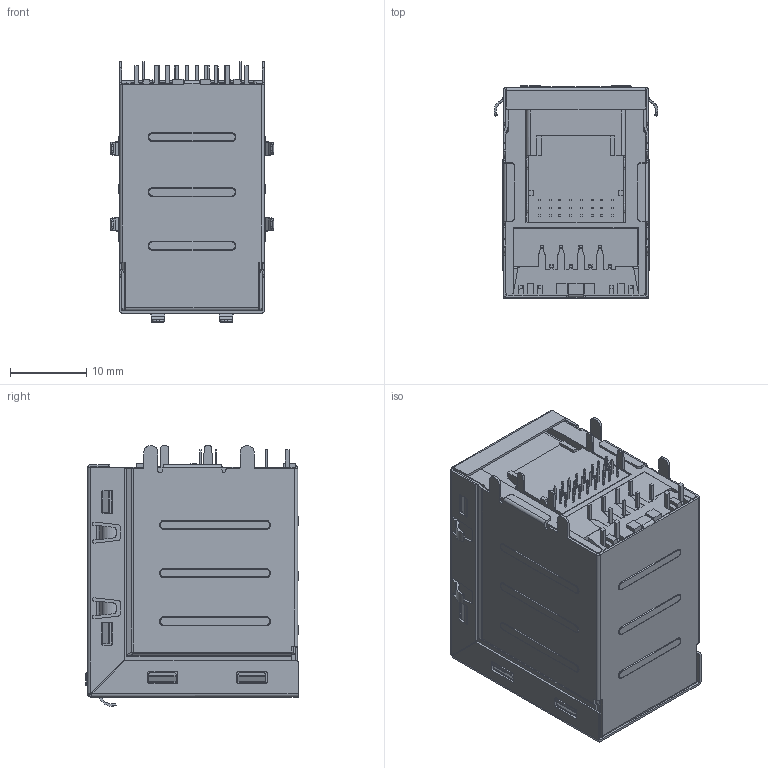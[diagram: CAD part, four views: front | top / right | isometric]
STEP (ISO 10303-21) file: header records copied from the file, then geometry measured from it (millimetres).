
FILE_DESCRIPTION((''),'2;1');
FILE_NAME('RJ45_TYPEC_SLW-M140001','2024-04-18T17:00:25',('Administrator'),(''),'CREO PARAMETRIC BY PTC INC, 2019010','CREO PARAMETRIC BY PTC INC, 2019010','');
FILE_SCHEMA(('CONFIG_CONTROL_DESIGN'));
Products named in the file (1): RJ45_TYPEC_SLW-M140001
Bounding box: 21.43 x 27.82 x 34.05 mm (x, y, z)
Volume: 9312.6 mm3; surface area: 16655.3 mm2
Topology: 1 solids, 10 shells, 2986 faces, 8723 edges, 5701 vertices
Faces by surface type: plane 2177, cylinder 725, bspline 38, torus 26, sphere 16, cone 4
Entity records: 99763 total; most frequent: CARTESIAN_POINT 20112, ORIENTED_EDGE 17414, DIRECTION 15601, EDGE_CURVE 8707, VECTOR 6965, LINE 6965, VERTEX_POINT 5701, AXIS2_PLACEMENT_3D 4318
